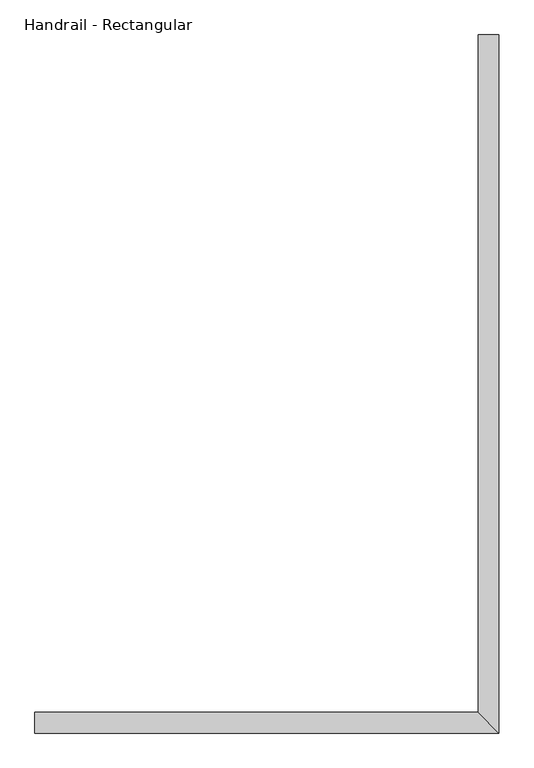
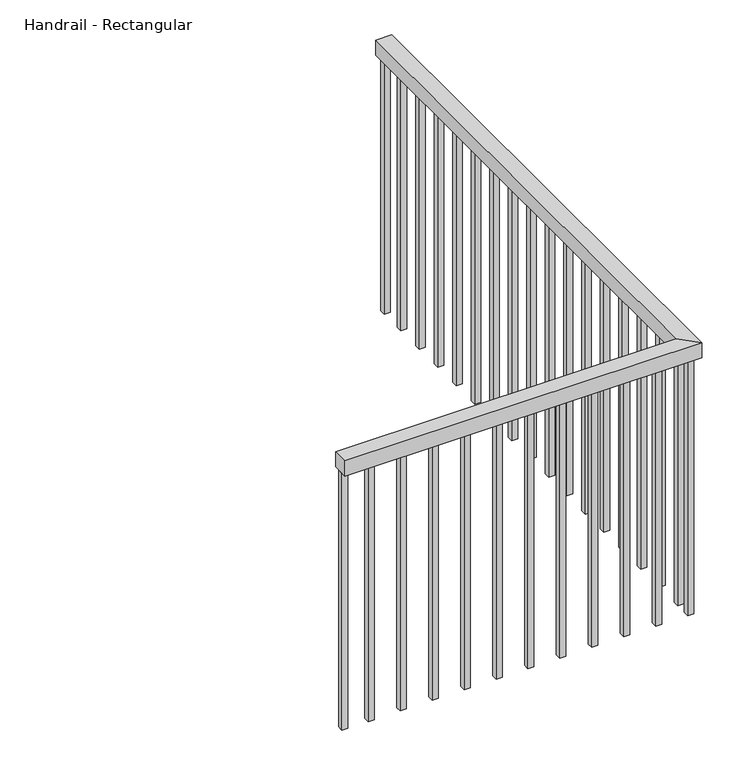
"""IFC4 building model written with IfcOpenShell, lengths in millimetres: railing geometry, Handrail - Rectangular."""

from ifc_helpers import new_model, si_unit, frame, origin, place, context, project, spatial, polyline, outline, extrude, faceted_brep, source, transform, mapped, element, save


def handrail_rectangular_25aba38f(model_context):
    return source(origin(), model_context, "Body", "SolidModel", [
        faceted_brep([(-3707.3276449, 2997.8922314, 3962.4), (-3656.5276449, 2997.8922314, 3962.4), (-3656.5276449, 2997.8922314, 3911.6), (-3707.3276449, 2997.8922314, 3911.6), (-3707.3276449, 1342.1543518, 3962.4), (-3656.5276449, 1291.3543518, 3962.4), (-3656.5276449, 1291.3543518, 3911.6), (-3707.3276449, 1342.1543518, 3911.6), (-4790.6972322, 1342.1543518, 3962.4), (-4790.6972322, 1342.1543518, 3911.6), (-4790.6972322, 1291.3543518, 3911.6), (-4790.6972322, 1291.3543518, 3962.4)], [[[0, 1, 2, 3]], [[1, 0, 4, 5]], [[2, 1, 5, 6]], [[3, 2, 6, 7]], [[0, 3, 7, 4]], [[8, 9, 10, 11]], [[5, 4, 8, 11]], [[6, 5, 11, 10]], [[7, 6, 10, 9]], [[4, 7, 9, 8]]]),
        extrude(outline(polyline([(-4688.4026449, 1326.2793518), (-4688.4026449, 1307.2293518), (-4707.4526449, 1307.2293518), (-4707.4526449, 1326.2793518), (-4688.4026449, 1326.2793518)])), frame((0.0, 0.0, 3048.0), z_axis=(0.0, 0.0, 1.0), x_axis=(1.0, 0.0, 0.0)), (0.0, 0.0, 1.0), 863.6),
        extrude(outline(polyline([(-4586.8026449, 1326.2793518), (-4586.8026449, 1307.2293518), (-4605.8526449, 1307.2293518), (-4605.8526449, 1326.2793518), (-4586.8026449, 1326.2793518)])), frame((0.0, 0.0, 3048.0), z_axis=(0.0, 0.0, 1.0), x_axis=(1.0, 0.0, 0.0)), (0.0, 0.0, 1.0), 863.6),
        extrude(outline(polyline([(-4485.2026449, 1326.2793518), (-4485.2026449, 1307.2293518), (-4504.2526449, 1307.2293518), (-4504.2526449, 1326.2793518), (-4485.2026449, 1326.2793518)])), frame((0.0, 0.0, 3048.0), z_axis=(0.0, 0.0, 1.0), x_axis=(1.0, 0.0, 0.0)), (0.0, 0.0, 1.0), 863.6),
        extrude(outline(polyline([(-4383.6026449, 1326.2793518), (-4383.6026449, 1307.2293518), (-4402.6526449, 1307.2293518), (-4402.6526449, 1326.2793518), (-4383.6026449, 1326.2793518)])), frame((0.0, 0.0, 3048.0), z_axis=(0.0, 0.0, 1.0), x_axis=(1.0, 0.0, 0.0)), (0.0, 0.0, 1.0), 863.6),
        extrude(outline(polyline([(-4282.0026449, 1326.2793518), (-4282.0026449, 1307.2293518), (-4301.0526449, 1307.2293518), (-4301.0526449, 1326.2793518), (-4282.0026449, 1326.2793518)])), frame((0.0, 0.0, 3048.0), z_axis=(0.0, 0.0, 1.0), x_axis=(1.0, 0.0, 0.0)), (0.0, 0.0, 1.0), 863.6),
        extrude(outline(polyline([(-4180.4026449, 1326.2793518), (-4180.4026449, 1307.2293518), (-4199.4526449, 1307.2293518), (-4199.4526449, 1326.2793518), (-4180.4026449, 1326.2793518)])), frame((0.0, 0.0, 3048.0), z_axis=(0.0, 0.0, 1.0), x_axis=(1.0, 0.0, 0.0)), (0.0, 0.0, 1.0), 863.6),
        extrude(outline(polyline([(-4078.8026449, 1326.2793518), (-4078.8026449, 1307.2293518), (-4097.8526449, 1307.2293518), (-4097.8526449, 1326.2793518), (-4078.8026449, 1326.2793518)])), frame((0.0, 0.0, 3048.0), z_axis=(0.0, 0.0, 1.0), x_axis=(1.0, 0.0, 0.0)), (0.0, 0.0, 1.0), 863.6),
        extrude(outline(polyline([(-3977.2026449, 1326.2793518), (-3977.2026449, 1307.2293518), (-3996.2526449, 1307.2293518), (-3996.2526449, 1326.2793518), (-3977.2026449, 1326.2793518)])), frame((0.0, 0.0, 3048.0), z_axis=(0.0, 0.0, 1.0), x_axis=(1.0, 0.0, 0.0)), (0.0, 0.0, 1.0), 863.6),
        extrude(outline(polyline([(-3875.6026449, 1326.2793518), (-3875.6026449, 1307.2293518), (-3894.6526449, 1307.2293518), (-3894.6526449, 1326.2793518), (-3875.6026449, 1326.2793518)])), frame((0.0, 0.0, 3048.0), z_axis=(0.0, 0.0, 1.0), x_axis=(1.0, 0.0, 0.0)), (0.0, 0.0, 1.0), 863.6),
        extrude(outline(polyline([(-3774.0026449, 1326.2793518), (-3774.0026449, 1307.2293518), (-3793.0526449, 1307.2293518), (-3793.0526449, 1326.2793518), (-3774.0026449, 1326.2793518)])), frame((0.0, 0.0, 3048.0), z_axis=(0.0, 0.0, 1.0), x_axis=(1.0, 0.0, 0.0)), (0.0, 0.0, 1.0), 863.6),
        extrude(outline(polyline([(-3691.4526449, 1381.8172314), (-3672.4026449, 1381.8172314), (-3672.4026449, 1362.7672314), (-3691.4526449, 1362.7672314), (-3691.4526449, 1381.8172314)])), frame((0.0, 0.0, 3048.0), z_axis=(0.0, 0.0, 1.0), x_axis=(1.0, 0.0, 0.0)), (0.0, 0.0, 1.0), 863.6),
        extrude(outline(polyline([(-3691.4526449, 1483.4172314), (-3672.4026449, 1483.4172314), (-3672.4026449, 1464.3672314), (-3691.4526449, 1464.3672314), (-3691.4526449, 1483.4172314)])), frame((0.0, 0.0, 3048.0), z_axis=(0.0, 0.0, 1.0), x_axis=(1.0, 0.0, 0.0)), (0.0, 0.0, 1.0), 863.6),
        extrude(outline(polyline([(-3691.4526449, 1585.0172314), (-3672.4026449, 1585.0172314), (-3672.4026449, 1565.9672314), (-3691.4526449, 1565.9672314), (-3691.4526449, 1585.0172314)])), frame((0.0, 0.0, 3048.0), z_axis=(0.0, 0.0, 1.0), x_axis=(1.0, 0.0, 0.0)), (0.0, 0.0, 1.0), 863.6),
        extrude(outline(polyline([(-3691.4526449, 1686.6172314), (-3672.4026449, 1686.6172314), (-3672.4026449, 1667.5672314), (-3691.4526449, 1667.5672314), (-3691.4526449, 1686.6172314)])), frame((0.0, 0.0, 3048.0), z_axis=(0.0, 0.0, 1.0), x_axis=(1.0, 0.0, 0.0)), (0.0, 0.0, 1.0), 863.6),
        extrude(outline(polyline([(-3691.4526449, 1788.2172314), (-3672.4026449, 1788.2172314), (-3672.4026449, 1769.1672314), (-3691.4526449, 1769.1672314), (-3691.4526449, 1788.2172314)])), frame((0.0, 0.0, 3048.0), z_axis=(0.0, 0.0, 1.0), x_axis=(1.0, 0.0, 0.0)), (0.0, 0.0, 1.0), 863.6),
        extrude(outline(polyline([(-3691.4526449, 1889.8172314), (-3672.4026449, 1889.8172314), (-3672.4026449, 1870.7672314), (-3691.4526449, 1870.7672314), (-3691.4526449, 1889.8172314)])), frame((0.0, 0.0, 3048.0), z_axis=(0.0, 0.0, 1.0), x_axis=(1.0, 0.0, 0.0)), (0.0, 0.0, 1.0), 863.6),
        extrude(outline(polyline([(-3691.4526449, 1991.4172314), (-3672.4026449, 1991.4172314), (-3672.4026449, 1972.3672314), (-3691.4526449, 1972.3672314), (-3691.4526449, 1991.4172314)])), frame((0.0, 0.0, 3048.0), z_axis=(0.0, 0.0, 1.0), x_axis=(1.0, 0.0, 0.0)), (0.0, 0.0, 1.0), 863.6),
        extrude(outline(polyline([(-3691.4526449, 2093.0172314), (-3672.4026449, 2093.0172314), (-3672.4026449, 2073.9672314), (-3691.4526449, 2073.9672314), (-3691.4526449, 2093.0172314)])), frame((0.0, 0.0, 3048.0), z_axis=(0.0, 0.0, 1.0), x_axis=(1.0, 0.0, 0.0)), (0.0, 0.0, 1.0), 863.6),
        extrude(outline(polyline([(-3691.4526449, 2194.6172314), (-3672.4026449, 2194.6172314), (-3672.4026449, 2175.5672314), (-3691.4526449, 2175.5672314), (-3691.4526449, 2194.6172314)])), frame((0.0, 0.0, 3048.0), z_axis=(0.0, 0.0, 1.0), x_axis=(1.0, 0.0, 0.0)), (0.0, 0.0, 1.0), 863.6),
        extrude(outline(polyline([(-3691.4526449, 2296.2172314), (-3672.4026449, 2296.2172314), (-3672.4026449, 2277.1672314), (-3691.4526449, 2277.1672314), (-3691.4526449, 2296.2172314)])), frame((0.0, 0.0, 3048.0), z_axis=(0.0, 0.0, 1.0), x_axis=(1.0, 0.0, 0.0)), (0.0, 0.0, 1.0), 863.6),
        extrude(outline(polyline([(-3691.4526449, 2397.8172314), (-3672.4026449, 2397.8172314), (-3672.4026449, 2378.7672314), (-3691.4526449, 2378.7672314), (-3691.4526449, 2397.8172314)])), frame((0.0, 0.0, 3048.0), z_axis=(0.0, 0.0, 1.0), x_axis=(1.0, 0.0, 0.0)), (0.0, 0.0, 1.0), 863.6),
        extrude(outline(polyline([(-3691.4526449, 2499.4172314), (-3672.4026449, 2499.4172314), (-3672.4026449, 2480.3672314), (-3691.4526449, 2480.3672314), (-3691.4526449, 2499.4172314)])), frame((0.0, 0.0, 3048.0), z_axis=(0.0, 0.0, 1.0), x_axis=(1.0, 0.0, 0.0)), (0.0, 0.0, 1.0), 863.6),
        extrude(outline(polyline([(-3691.4526449, 2601.0172314), (-3672.4026449, 2601.0172314), (-3672.4026449, 2581.9672314), (-3691.4526449, 2581.9672314), (-3691.4526449, 2601.0172314)])), frame((0.0, 0.0, 3048.0), z_axis=(0.0, 0.0, 1.0), x_axis=(1.0, 0.0, 0.0)), (0.0, 0.0, 1.0), 863.6),
        extrude(outline(polyline([(-3691.4526449, 2702.6172314), (-3672.4026449, 2702.6172314), (-3672.4026449, 2683.5672314), (-3691.4526449, 2683.5672314), (-3691.4526449, 2702.6172314)])), frame((0.0, 0.0, 3048.0), z_axis=(0.0, 0.0, 1.0), x_axis=(1.0, 0.0, 0.0)), (0.0, 0.0, 1.0), 863.6),
        extrude(outline(polyline([(-3691.4526449, 2804.2172314), (-3672.4026449, 2804.2172314), (-3672.4026449, 2785.1672314), (-3691.4526449, 2785.1672314), (-3691.4526449, 2804.2172314)])), frame((0.0, 0.0, 3048.0), z_axis=(0.0, 0.0, 1.0), x_axis=(1.0, 0.0, 0.0)), (0.0, 0.0, 1.0), 863.6),
        extrude(outline(polyline([(-3691.4526449, 2905.8172314), (-3672.4026449, 2905.8172314), (-3672.4026449, 2886.7672314), (-3691.4526449, 2886.7672314), (-3691.4526449, 2905.8172314)])), frame((0.0, 0.0, 3048.0), z_axis=(0.0, 0.0, 1.0), x_axis=(1.0, 0.0, 0.0)), (0.0, 0.0, 1.0), 863.6),
        extrude(outline(polyline([(-3691.4526449, 1326.2793518), (-3672.4026449, 1326.2793518), (-3672.4026449, 1307.2293518), (-3691.4526449, 1307.2293518), (-3691.4526449, 1326.2793518)])), frame((0.0, 0.0, 3048.0), z_axis=(0.0, 0.0, 1.0), x_axis=(1.0, 0.0, 0.0)), (0.0, 0.0, 1.0), 863.6),
        extrude(outline(polyline([(-4771.6472322, 1326.2793518), (-4771.6472322, 1307.2293518), (-4790.6972322, 1307.2293518), (-4790.6972322, 1326.2793518), (-4771.6472322, 1326.2793518)])), frame((0.0, 0.0, 3048.0), z_axis=(0.0, 0.0, 1.0), x_axis=(1.0, 0.0, 0.0)), (0.0, 0.0, 1.0), 863.6),
        extrude(outline(polyline([(-3691.4526449, 2997.8922314), (-3672.4026449, 2997.8922314), (-3672.4026449, 2978.8422314), (-3691.4526449, 2978.8422314), (-3691.4526449, 2997.8922314)])), frame((0.0, 0.0, 3048.0), z_axis=(0.0, 0.0, 1.0), x_axis=(1.0, 0.0, 0.0)), (0.0, 0.0, 1.0), 863.6),
    ])


if __name__ == "__main__":
    model = new_model("IFC4")
    model_context = context("Model", 3, world=origin())
    ifc_project = project(units=[si_unit("LENGTHUNIT", "METRE", prefix="MILLI")], contexts=[model_context])
    site = spatial("IfcSite", under=ifc_project)
    building = spatial("IfcBuilding", under=site)
    placement = place(None, origin())
    handrail_rectangular_shape = handrail_rectangular_25aba38f(model_context)
    element("IfcRailing", 1, ObjectType="Handrail - Rectangular", at=placement, inside=building, context=model_context, shape_type="MappedRepresentation", body=[
        mapped(handrail_rectangular_shape, transform((0.0, 0.0, 0.0), x_axis=(1.0, 0.0, 0.0), y_axis=(0.0, 1.0, 0.0), z_axis=(0.0, 0.0, 1.0))),
    ])
    save(model, "model.ifc")
